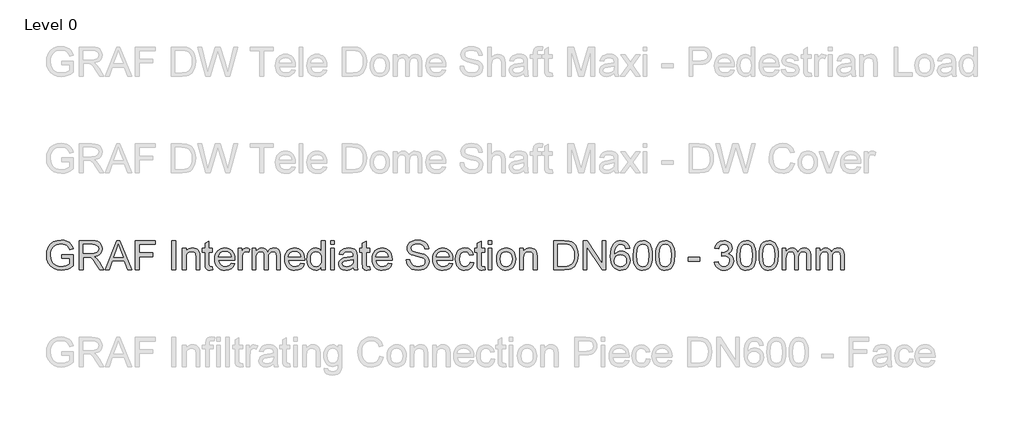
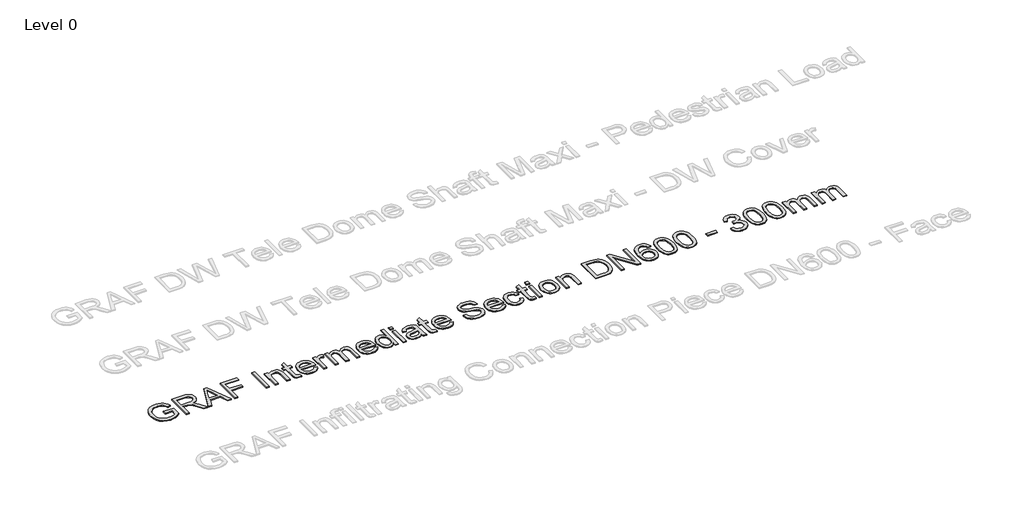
# One storey, part 10 of 25: 1 proxy.
"""IFC4 building model written with IfcOpenShell, lengths in millimetres."""

import ifcopenshell
import ifcopenshell.guid

model = None  # the IFC model being written
_history = None  # IfcOwnerHistory: only IFC2X3 demands one
_inside = {}  # id of a spatial element -> (the spatial element, [elements in it])
_under = {}  # id of a project, library or spatial element -> (it, [spatial elements below it])
_declared = {}  # id of a project -> (the project, [libraries it declares])
_typed = {}  # id of a type object -> (the type object, [elements of that type])
_made_of = {}  # id of a material, layer set ... -> (it, [elements and type objects made of it])


def new_model(schema):
    """Start an empty IFC model of exactly this schema.

    Asked for "IFC4X3", IfcOpenShell would pick the latest addendum, in which some entities
    have other attributes; the version numbers below select the first issue.
    IFC2X3 requires an IfcOwnerHistory on every rooted entity: one is made here for all.
    """
    global model, _history
    if schema == "IFC4X3":
        model = ifcopenshell.file(schema_version=(4, 3, 0, 0))
    else:
        model = ifcopenshell.file(schema=schema)
    _inside.clear()
    _under.clear()
    _declared.clear()
    _typed.clear()
    _made_of.clear()
    _history = None
    if model.schema == "IFC2X3":
        org = make("IfcOrganization", Name="unknown")
        user = make(
            "IfcPersonAndOrganization",
            ThePerson=make("IfcPerson", FamilyName="unknown"),
            TheOrganization=org,
        )
        app = make(
            "IfcApplication",
            ApplicationDeveloper=org,
            Version="unknown",
            ApplicationFullName="unknown",
            ApplicationIdentifier="unknown",
        )
        _history = make(
            "IfcOwnerHistory",
            OwningUser=user,
            OwningApplication=app,
            ChangeAction="ADDED",
            CreationDate=0,
        )
    return model


def make(cls, **values):
    """One entity of the class cls with the attributes given. An attribute that is None is left unset."""
    return model.create_entity(
        cls, **{name: value for name, value in values.items() if value is not None}
    )


def rooted(cls, **values):
    """An entity with a GlobalId (a new one), such as an element, a storey or a relation."""
    return make(cls, GlobalId=ifcopenshell.guid.new(), OwnerHistory=_history, **values)


def si_unit(unit_type, name, prefix=None):
    """IfcSIUnit, for example si_unit("LENGTHUNIT", "METRE", prefix="MILLI")."""
    return make("IfcSIUnit", UnitType=unit_type, Prefix=prefix, Name=name)


def assignment(units):
    """IfcUnitAssignment: the units of a project."""
    return None if units is None else make("IfcUnitAssignment", Units=units)


def point(xyz):
    """IfcCartesianPoint."""
    return None if xyz is None else make("IfcCartesianPoint", Coordinates=xyz)


def direction(xyz):
    """IfcDirection."""
    return None if xyz is None else make("IfcDirection", DirectionRatios=xyz)


def frame(location, z_axis=None, x_axis=None):
    """IfcAxis2Placement3D, a coordinate frame: its origin and axes. An axis left out is left unset."""
    return make(
        "IfcAxis2Placement3D",
        Location=point(location),
        Axis=direction(z_axis),
        RefDirection=direction(x_axis),
    )


def origin():
    """The frame at (0, 0, 0) with its axes left unset."""
    return frame((0.0, 0.0, 0.0))


def origin_with_axes():
    """The frame at (0, 0, 0) with the z axis (0, 0, 1) and the x axis (1, 0, 0) written out."""
    return frame((0.0, 0.0, 0.0), z_axis=(0.0, 0.0, 1.0), x_axis=(1.0, 0.0, 0.0))


def place(relative_to, where):
    """IfcLocalPlacement: puts the frame where relative to a parent placement (None: the world)."""
    return make(
        "IfcLocalPlacement", PlacementRelTo=relative_to, RelativePlacement=where
    )


def context(
    kind, dimensions, precision=None, world=None, true_north=None, identifier=None
):
    """IfcGeometricRepresentationContext, for example the 3D "Model" context."""
    return make(
        "IfcGeometricRepresentationContext",
        ContextIdentifier=identifier,
        ContextType=kind,
        CoordinateSpaceDimension=dimensions,
        Precision=precision,
        WorldCoordinateSystem=world,
        TrueNorth=true_north,
    )


def project(units=None, contexts=None):
    """IfcProject with its units and contexts."""
    return rooted(
        "IfcProject",
        Name="project",
        RepresentationContexts=contexts,
        UnitsInContext=assignment(units),
    )


def spatial(cls, under=None, at=None, **own):
    """A site, building, storey or space (cls), placed at a placement, below another one or the project."""
    s = rooted(cls, ObjectPlacement=at, **own)
    if under is not None:
        _under.setdefault(under.id(), (under, []))[1].append(s)
    return s


def polyline(points):
    """IfcPolyline through the points."""
    return make("IfcPolyline", Points=[point(p) for p in points])


def outline(outer, holes=None, kind="AREA"):
    """IfcArbitraryClosedProfileDef: a profile drawn as a closed curve; with holes, ...WithVoids."""
    if holes is None:
        return make("IfcArbitraryClosedProfileDef", ProfileType=kind, OuterCurve=outer)
    return make(
        "IfcArbitraryProfileDefWithVoids",
        ProfileType=kind,
        OuterCurve=outer,
        InnerCurves=holes,
    )


def extrude(swept, where, along, depth):
    """IfcExtrudedAreaSolid: the profile swept, set in the frame where, extruded along a direction by depth."""
    return make(
        "IfcExtrudedAreaSolid",
        SweptArea=swept,
        Position=where,
        ExtrudedDirection=direction(along),
        Depth=depth,
    )


def shape(context_of_items, identifier, shape_type, items):
    """IfcShapeRepresentation: the items that make up one representation, for example the "Body"."""
    return make(
        "IfcShapeRepresentation",
        ContextOfItems=context_of_items,
        RepresentationIdentifier=identifier,
        RepresentationType=shape_type,
        Items=items,
    )


def made_of(thing, what):
    """Note that an element or type object is made of a material, layer set ...; save() writes the relation."""
    if what is not None:
        _made_of.setdefault(what.id(), (what, []))[1].append(thing)
    return thing


def element(
    cls,
    number,
    at=None,
    inside=None,
    cuts=None,
    type_object=None,
    material=None,
    context=None,
    identifier="Body",
    shape_type=None,
    held_by="IfcProductDefinitionShape",
    body=None,
    shapes=None,
    **own,
):
    """One element of the class cls, such as IfcWall. Its Tag is "e" and its number.

    at: its placement. inside: the storey or other place that contains it. cuts: it is an
    opening in that element (IfcRelVoidsElement). A single representation is given by context,
    identifier, shape_type and body (its items); several are given by shapes. held_by: the class
    of the entity that holds the representations. save() writes the other relations.
    """
    e = rooted(cls, Tag="e%d" % number, ObjectPlacement=at, **own)
    if body is not None:
        shapes = [shape(context, identifier, shape_type, body)]
    if shapes is not None:
        e.Representation = make(held_by, Representations=shapes)
    if inside is not None:
        _inside.setdefault(inside.id(), (inside, []))[1].append(e)
    if cuts is not None:
        rooted(
            "IfcRelVoidsElement", RelatingBuildingElement=cuts, RelatedOpeningElement=e
        )
    if type_object is not None:
        _typed.setdefault(type_object.id(), (type_object, []))[1].append(e)
    return made_of(e, material)


def aggregate(whole, parts):
    """IfcRelAggregates: a whole, such as a stair, and the parts it consists of."""
    return rooted("IfcRelAggregates", RelatingObject=whole, RelatedObjects=parts)


def save(model, path):
    """Write the relations noted so far, then the file.

    IfcRelAggregates (storeys below a building ...), IfcRelContainedInSpatialStructure (elements
    in a storey), IfcRelDefinesByType, IfcRelAssociatesMaterial and IfcRelDeclares: one each for
    every whole, place, type object, material and project.
    """
    for whole, parts in _under.values():
        aggregate(whole, parts)
    for where, things in _inside.values():
        rooted(
            "IfcRelContainedInSpatialStructure",
            RelatedElements=things,
            RelatingStructure=where,
        )
    for kind, things in _typed.values():
        rooted("IfcRelDefinesByType", RelatedObjects=things, RelatingType=kind)
    for what, things in _made_of.values():
        rooted("IfcRelAssociatesMaterial", RelatedObjects=things, RelatingMaterial=what)
    for by, libraries in _declared.values():
        rooted("IfcRelDeclares", RelatingContext=by, RelatedDefinitions=libraries)
    model.write(path)


model = new_model("IFC4")

# Units and contexts
model_context = context("Model", 3, world=origin())
ifc_project = project(units=[si_unit("LENGTHUNIT", "METRE", prefix="MILLI")], contexts=[model_context])

# Site, building, storey
site = spatial("IfcSite", under=ifc_project)
building = spatial("IfcBuilding", under=site)
storey = spatial("IfcBuildingStorey", under=building, Name="Level 0", Elevation=0.0)

# Proxy
placement = place(None, origin())
element("IfcBuildingElementProxy", 1, Name="300mm Arial", ObjectType="300mm Arial", at=placement, inside=storey, context=model_context, shape_type="SweptSolid", body=[
    extrude(outline(polyline([(-15240.9940387, -1083.2545597), (-15240.9940387, -1045.5834434), (-15118.5629107, -1045.5834434), (-15118.5629107, -1158.2289103), (-15148.3153671, -1178.9222726), (-15179.0059225, -1193.7663111), (-15210.5610007, -1202.7058436), (-15242.9070251, -1205.6856877), (-15285.1674693, -1200.949207), (-15323.3628175, -1186.739765), (-15355.0926395, -1163.5540022), (-15377.9565055, -1131.8885595), (-15391.7796715, -1093.9047435), (-15396.3873935, -1051.7638609), (-15391.7980656, -1009.3194757), (-15378.0300819, -969.8365406), (-15355.6536596, -936.717964), (-15325.2390156, -913.3666543), (-15288.1932987, -899.5158972), (-15245.9236575, -894.8989782), (-15214.8928112, -897.5753197), (-15186.9889618, -905.6043443), (-15163.4904994, -918.4066377), (-15145.6758138, -935.4027859), (-15132.4964413, -957.4113262), (-15122.9039183, -985.2507962), (-15157.6319786, -995.0364573), (-15165.3850917, -975.1800266), (-15174.8120678, -960.1980323), (-15187.2832674, -948.9040551), (-15204.169051, -940.1116754), (-15224.3013932, -934.4554897), (-15246.5122687, -932.5700945), (-15272.5123287, -934.6026425), (-15294.7415982, -940.7002866), (-15313.1173039, -950.0996716), (-15327.5566722, -962.0374423), (-15346.9440533, -991.0633317), (-15355.7732212, -1019.50061), (-15358.7162772, -1050.2187566), (-15355.175413, -1086.2436009), (-15344.5528204, -1115.8856927), (-15327.1703961, -1138.9334997), (-15303.3500369, -1155.1754898), (-15275.4737787, -1164.804801), (-15245.9236575, -1168.0145714), (-15219.831627, -1165.5957473), (-15194.3833899, -1158.3392749), (-15172.2828791, -1148.3420817), (-15156.234027, -1137.701095), (-15156.234027, -1083.2545597), (-15240.9940387, -1083.2545597)])), origin_with_axes(), (0.0, 0.0, 1.0), 10.0),
    extrude(outline(polyline([(-15057.3473467, -1200.9767982), (-15057.3473467, -899.6078677), (-14927.4850024, -899.6078677), (-14892.5821982, -901.6404158), (-14867.1891434, -907.7380598), (-14848.6294968, -918.9952489), (-14834.2269167, -936.5064318), (-14824.9838815, -958.2206666), (-14821.9028698, -982.087011), (-14827.0072325, -1011.7750881), (-14842.3203206, -1036.3863935), (-14853.9200997, -1046.4157764), (-14868.3019865, -1054.4310054), (-14905.4120827, -1064.4190016), (-14884.0013506, -1080.532233), (-14853.467145, -1119.3069952), (-14803.2144645, -1200.9767982), (-14846.9924219, -1200.9767982), (-14886.2086426, -1138.5104354), (-14914.5355562, -1097.1604991), (-14934.4379722, -1077.6259652), (-14952.3538253, -1070.4522663), (-14974.2060158, -1069.1278911), (-15019.6762304, -1069.1278911), (-15019.6762304, -1200.9767982), (-15057.3473467, -1200.9767982)]), holes=[polyline([(-15019.6762304, -1031.4567748), (-14935.3576771, -1031.4567748), (-14911.1418448, -1030.1232026), (-14892.3522719, -1026.1224859), (-14878.2072092, -1019.1879103), (-14867.9249074, -1009.0527613), (-14861.6617165, -996.7930938), (-14859.5739861, -983.4849626), (-14863.5563087, -965.109257), (-14875.5032765, -950.3020067), (-14896.058683, -940.5347397), (-14925.8663217, -937.278984), (-15019.6762304, -937.278984), (-15019.6762304, -1031.4567748)])]), origin_with_axes(), (0.0, 0.0, 1.0), 10.0),
    extrude(outline(polyline([(-14791.0743586, -1200.9767982), (-14670.7769462, -899.6078677), (-14638.6976362, -899.6078677), (-14518.4002238, -1200.9767982), (-14558.2050557, -1200.9767982), (-14592.7123868, -1106.7990074), (-14716.835772, -1106.7990074), (-14751.2695268, -1200.9767982), (-14791.0743586, -1200.9767982)]), holes=[polyline([(-14703.003409, -1069.1278911), (-14606.4711735, -1069.1278911), (-14633.6208647, -995.0364573), (-14654.7372912, -937.278984), (-14673.499273, -988.5617342), (-14703.003409, -1069.1278911)])]), origin_with_axes(), (0.0, 0.0, 1.0), 10.0),
    extrude(outline(polyline([(-14478.1539335, -1200.9767982), (-14478.1539335, -899.6078677), (-14275.6716834, -899.6078677), (-14275.6716834, -937.278984), (-14440.4828172, -937.278984), (-14440.4828172, -1026.7478853), (-14299.2161311, -1026.7478853), (-14299.2161311, -1064.4190016), (-14440.4828172, -1064.4190016), (-14440.4828172, -1200.9767982), (-14478.1539335, -1200.9767982)])), origin_with_axes(), (0.0, 0.0, 1.0), 10.0),
    extrude(outline(polyline([(-14101.4427705, -1200.9767982), (-14101.4427705, -899.6078677), (-14063.7716542, -899.6078677), (-14063.7716542, -1200.9767982), (-14101.4427705, -1200.9767982)])), origin_with_axes(), (0.0, 0.0, 1.0), 10.0),
    extrude(outline(polyline([(-13993.1383111, -1200.9767982), (-13993.1383111, -979.6589899), (-13955.4671948, -979.6589899), (-13955.4671948, -1010.5610775), (-13942.3797928, -994.981275), (-13926.6620346, -983.8528446), (-13908.3139201, -977.1757864), (-13887.3354493, -974.9501003), (-13868.7666056, -976.7435251), (-13851.7612603, -982.1237992), (-13837.5794094, -990.4195382), (-13827.4810487, -1000.9593574), (-13816.1870714, -1028.6608716), (-13814.2005086, -1065.0811892), (-13814.2005086, -1200.9767982), (-13851.8716249, -1200.9767982), (-13851.8716249, -1070.1579607), (-13856.2126325, -1036.8278519), (-13862.2183061, -1026.9042351), (-13871.5533117, -1019.2063044), (-13883.5186736, -1014.2674886), (-13897.415416, -1012.6212166), (-13919.4791386, -1016.3184307), (-13938.2871056, -1027.4100729), (-13945.8033946, -1036.4645685), (-13951.1721725, -1048.8391991), (-13955.4671948, -1083.5488653), (-13955.4671948, -1200.9767982), (-13993.1383111, -1200.9767982)])), origin_with_axes(), (0.0, 0.0, 1.0), 10.0),
    extrude(outline(polyline([(-13682.3516016, -1169.5596758), (-13677.642712, -1202.0804442), (-13705.8224729, -1205.6856877), (-13723.9038729, -1204.1221892), (-13737.386748, -1199.4316938), (-13746.9148917, -1192.2028126), (-13753.1320974, -1183.0241568), (-13756.5534, -1167.2604133), (-13757.6938342, -1140.276269), (-13757.6938342, -1017.3301062), (-13785.9471714, -1017.3301062), (-13785.9471714, -979.6589899), (-13757.6938342, -979.6589899), (-13757.6938342, -925.8746422), (-13720.0227179, -903.7281461), (-13720.0227179, -979.6589899), (-13682.3516016, -979.6589899), (-13682.3516016, -1017.3301062), (-13720.0227179, -1017.3301062), (-13720.0227179, -1139.172623), (-13718.0361551, -1158.5967923), (-13711.5982202, -1165.4761856), (-13698.7591386, -1168.0145714), (-13682.3516016, -1169.5596758)])), origin_with_axes(), (0.0, 0.0, 1.0), 10.0),
    extrude(outline(polyline([(-13489.7285889, -1135.0523446), (-13452.7932366, -1139.7612342), (-13466.1013678, -1167.5915071), (-13487.3373559, -1188.3952339), (-13516.0229545, -1201.3630743), (-13551.6799169, -1205.6856877), (-13575.0542192, -1203.8209859), (-13595.8809386, -1198.2268803), (-13614.1600752, -1188.9033709), (-13629.8916291, -1175.8504579), (-13642.5421712, -1159.4314246), (-13651.5782727, -1140.0095545), (-13656.9999336, -1117.5848477), (-13658.8071539, -1092.157304), (-13656.9815395, -1065.8675369), (-13651.5046963, -1042.6955698), (-13642.3766243, -1022.6414025), (-13629.5973235, -1005.7050351), (-13613.9071564, -992.2497512), (-13596.0464855, -982.638834), (-13576.0153109, -976.8722838), (-13553.8136325, -974.9501003), (-13532.3270247, -976.8676852), (-13512.8959575, -982.6204399), (-13495.5204311, -992.2083644), (-13480.2004452, -1005.6314587), (-13467.6947566, -1022.5310379), (-13458.762122, -1042.548417), (-13453.4025411, -1065.6835959), (-13451.6160142, -1091.9365748), (-13451.8367434, -1102.0901179), (-13621.1360376, -1102.0901179), (-13614.6153292, -1130.2882728), (-13599.4677881, -1151.0184232), (-13577.6064005, -1163.7655344), (-13550.9441529, -1168.0145714), (-13530.8945842, -1166.0464027), (-13514.0088006, -1160.1418967), (-13500.2868022, -1149.9331713), (-13489.7285889, -1135.0523446)]), holes=[polyline([(-13621.1360376, -1064.4190016), (-13489.2871305, -1064.4190016), (-13494.3822961, -1044.5165856), (-13504.3702923, -1030.2795524), (-13526.3328474, -1017.0358006), (-13553.9607853, -1012.6212166), (-13579.35384, -1016.1436868), (-13600.3507048, -1026.7110971), (-13614.946423, -1043.1830134), (-13621.1360376, -1064.4190016)])]), origin_with_axes(), (0.0, 0.0, 1.0), 10.0),
    extrude(outline(polyline([(-13413.9448979, -1200.9767982), (-13413.9448979, -979.6589899), (-13380.9826711, -979.6589899), (-13380.9826711, -1012.4004875), (-13368.8057771, -993.4177765), (-13357.5853762, -982.2341638), (-13346.3281872, -976.7711162), (-13334.0409285, -974.9501003), (-13315.2789468, -977.8563681), (-13296.2226594, -986.5751714), (-13308.8042237, -1020.3467385), (-13322.0479755, -1014.5525971), (-13335.2917273, -1012.6212166), (-13346.5397193, -1014.4790207), (-13356.5920948, -1020.052433), (-13364.7130899, -1028.918389), (-13370.1669405, -1040.6538247), (-13374.7470713, -1061.6966748), (-13376.2737816, -1084.6525113), (-13376.2737816, -1200.9767982), (-13413.9448979, -1200.9767982)])), origin_with_axes(), (0.0, 0.0, 1.0), 10.0),
    extrude(outline(polyline([(-13272.6782117, -1200.9767982), (-13272.6782117, -979.6589899), (-13235.0070954, -979.6589899), (-13235.0070954, -1016.0793074), (-13223.67633, -999.3498737), (-13209.108203, -986.2440776), (-13191.7993551, -977.7735947), (-13172.2464271, -974.9501003), (-13151.2955474, -977.828777), (-13134.5017344, -986.4648068), (-13121.9569583, -1000.2879728), (-13113.7531898, -1018.7280578), (-13100.0219944, -999.5752014), (-13084.3594184, -985.8945897), (-13066.765462, -977.6862227), (-13047.2401251, -974.9501003), (-13018.9224085, -979.50264), (-12997.9807259, -993.1602591), (-12985.0404768, -1016.2908395), (-12980.7270604, -1049.2622634), (-12980.7270604, -1200.9767982), (-13018.3981767, -1200.9767982), (-13018.3981767, -1065.4490712), (-13021.8930556, -1033.9951606), (-13026.8042803, -1025.3223425), (-13034.5481963, -1018.5073286), (-13044.5086013, -1014.0927446), (-13056.069293, -1012.6212166), (-13076.4775467, -1016.3920071), (-13093.1150099, -1027.7043784), (-13104.1790609, -1047.3308829), (-13107.8670779, -1076.0440726), (-13107.8670779, -1200.9767982), (-13145.5381942, -1200.9767982), (-13145.5381942, -1061.2552164), (-13147.717895, -1039.9548489), (-13154.2569975, -1024.7613225), (-13165.7625069, -1015.6562431), (-13182.8414285, -1012.6212166), (-13197.3543732, -1014.6445676), (-13210.7268838, -1020.7146205), (-13221.7633436, -1030.6842226), (-13229.2681363, -1044.406221), (-13233.5723557, -1063.4441143), (-13235.0070954, -1089.3614008), (-13235.0070954, -1200.9767982), (-13272.6782117, -1200.9767982)])), origin_with_axes(), (0.0, 0.0, 1.0), 10.0),
    extrude(outline(polyline([(-12769.2684895, -1135.0523446), (-12732.3331372, -1139.7612342), (-12745.6412684, -1167.5915071), (-12766.8772566, -1188.3952339), (-12795.5628551, -1201.3630743), (-12831.2198175, -1205.6856877), (-12854.5941198, -1203.8209859), (-12875.4208393, -1198.2268803), (-12893.6999759, -1188.9033709), (-12909.4315297, -1175.8504579), (-12922.0820718, -1159.4314246), (-12931.1181733, -1140.0095545), (-12936.5398342, -1117.5848477), (-12938.3470545, -1092.157304), (-12936.5214401, -1065.8675369), (-12931.0445969, -1042.6955698), (-12921.9165249, -1022.6414025), (-12909.1372241, -1005.7050351), (-12893.447057, -992.2497512), (-12875.5863861, -982.638834), (-12855.5552115, -976.8722838), (-12833.3535331, -974.9501003), (-12811.8669253, -976.8676852), (-12792.4358582, -982.6204399), (-12775.0603317, -992.2083644), (-12759.7403459, -1005.6314587), (-12747.2346573, -1022.5310379), (-12738.3020226, -1042.548417), (-12732.9424418, -1065.6835959), (-12731.1559148, -1091.9365748), (-12731.376644, -1102.0901179), (-12900.6759382, -1102.0901179), (-12894.1552299, -1130.2882728), (-12879.0076887, -1151.0184232), (-12857.1463011, -1163.7655344), (-12830.4840535, -1168.0145714), (-12810.4344848, -1166.0464027), (-12793.5487012, -1160.1418967), (-12779.8267028, -1149.9331713), (-12769.2684895, -1135.0523446)]), holes=[polyline([(-12900.6759382, -1064.4190016), (-12768.8270311, -1064.4190016), (-12773.9221968, -1044.5165856), (-12783.910193, -1030.2795524), (-12805.8727481, -1017.0358006), (-12833.5006859, -1012.6212166), (-12858.8937406, -1016.1436868), (-12879.8906055, -1026.7110971), (-12894.4863237, -1043.1830134), (-12900.6759382, -1064.4190016)])]), origin_with_axes(), (0.0, 0.0, 1.0), 10.0),
    extrude(outline(polyline([(-12556.9270019, -1200.9767982), (-12556.9270019, -1165.4393974), (-12568.1979866, -1183.0471494), (-12581.8510071, -1195.6241151), (-12597.8860636, -1203.1702946), (-12616.3031559, -1205.6856877), (-12640.656944, -1202.043656), (-12662.9505929, -1191.1175607), (-12681.8229393, -1173.6707571), (-12695.9128197, -1150.4666002), (-12704.6868053, -1122.4431893), (-12707.6114672, -1090.5386232), (-12704.9167315, -1059.0295303), (-12696.8325247, -1030.573858), (-12683.3680437, -1006.790287), (-12664.5324855, -989.2974982), (-12641.751393, -978.5369498), (-12616.4503087, -974.9501003), (-12598.0194208, -977.5160773), (-12581.7222484, -985.214008), (-12567.9082795, -997.013823), (-12556.9270019, -1011.8854527), (-12556.9270019, -899.6078677), (-12519.2558856, -899.6078677), (-12519.2558856, -1200.9767982), (-12556.9270019, -1200.9767982)]), holes=[polyline([(-12669.9403508, -1090.3914704), (-12665.6913138, -1124.4665402), (-12652.9442027, -1148.7007667), (-12634.4213442, -1163.1861202), (-12612.8450652, -1168.0145714), (-12591.2779832, -1163.4068494), (-12573.2241743, -1149.5836835), (-12561.001295, -1126.2875561), (-12556.9270019, -1093.26095), (-12561.0748714, -1057.1533322), (-12573.5184799, -1032.1189624), (-12592.0321413, -1017.4956531), (-12614.3901696, -1012.6212166), (-12636.1871778, -1017.302515), (-12654.0478487, -1031.3464102), (-12665.9672253, -1055.470272), (-12669.9403508, -1090.3914704)])]), origin_with_axes(), (0.0, 0.0, 1.0), 10.0),
    extrude(outline(polyline([(-12462.7492112, -937.278984), (-12462.7492112, -899.6078677), (-12425.0780949, -899.6078677), (-12425.0780949, -937.278984), (-12462.7492112, -937.278984)])), origin_with_axes(), (0.0, 0.0, 1.0), 10.0),
    extrude(outline(polyline([(-12462.7492112, -1200.9767982), (-12462.7492112, -979.6589899), (-12425.0780949, -979.6589899), (-12425.0780949, -1200.9767982), (-12462.7492112, -1200.9767982)])), origin_with_axes(), (0.0, 0.0, 1.0), 10.0),
    extrude(outline(polyline([(-12227.3047342, -1172.7234609), (-12245.3033609, -1188.1561106), (-12263.8354164, -1198.2544714), (-12283.3239651, -1203.8278836), (-12304.1920712, -1205.6856877), (-12335.673573, -1201.2159215), (-12358.8961239, -1187.8066228), (-12373.2159306, -1167.4443543), (-12377.9891995, -1142.1156789), (-12376.1865777, -1126.4990883), (-12370.7787124, -1112.3172373), (-12362.4369881, -1100.1771315), (-12351.8327896, -1090.685776), (-12325.4556506, -1078.324941), (-12292.8613058, -1072.6595583), (-12254.3440609, -1066.6998699), (-12227.5254634, -1059.710112), (-12227.3047342, -1051.3224025), (-12229.8983023, -1034.5101954), (-12237.6790065, -1023.5105237), (-12255.0798249, -1015.3435434), (-12279.3232484, -1012.6212166), (-12301.7640501, -1014.4330355), (-12317.4358231, -1019.868492), (-12328.122795, -1029.9208675), (-12335.6091936, -1045.5834434), (-12373.2803099, -1040.8745539), (-12366.7412075, -1020.2731621), (-12356.9831375, -1004.0863544), (-12343.0955922, -991.7071252), (-12324.1680636, -982.5284694), (-12301.019089, -976.8446926), (-12274.467206, -974.9501003), (-12249.0005749, -976.6239634), (-12228.8130504, -981.6455527), (-12213.5919329, -989.1963306), (-12203.0245226, -998.4577598), (-12196.0163706, -1009.9080869), (-12191.4730279, -1024.0255585), (-12189.6336179, -1056.9877853), (-12189.6336179, -1103.8559515), (-12187.7206316, -1169.3021584), (-12180.2158389, -1200.9767982), (-12217.8869552, -1200.9767982), (-12227.3047342, -1172.7234609)]), holes=[polyline([(-12227.3047342, -1097.3812283), (-12288.0788399, -1108.932723), (-12320.4892436, -1115.0395641), (-12335.1677352, -1124.972378), (-12340.3180832, -1139.4669286), (-12337.512983, -1150.6689353), (-12329.0976823, -1159.8475911), (-12315.2561222, -1165.9728263), (-12296.1722437, -1168.0145714), (-12275.938734, -1165.7612942), (-12258.059669, -1159.0014625), (-12243.5651184, -1149.0410575), (-12233.4851518, -1137.1860602), (-12229.0153855, -1124.972378), (-12227.5254634, -1108.0498062), (-12227.3047342, -1097.3812283)])]), origin_with_axes(), (0.0, 0.0, 1.0), 10.0),
    extrude(outline(polyline([(-12057.7847109, -1169.5596758), (-12053.0758213, -1202.0804442), (-12081.2555822, -1205.6856877), (-12099.3369822, -1204.1221892), (-12112.8198573, -1199.4316938), (-12122.348001, -1192.2028126), (-12128.5652067, -1183.0241568), (-12131.9865093, -1167.2604133), (-12133.1269435, -1140.276269), (-12133.1269435, -1017.3301062), (-12161.3802807, -1017.3301062), (-12161.3802807, -979.6589899), (-12133.1269435, -979.6589899), (-12133.1269435, -925.8746422), (-12095.4558272, -903.7281461), (-12095.4558272, -979.6589899), (-12057.7847109, -979.6589899), (-12057.7847109, -1017.3301062), (-12095.4558272, -1017.3301062), (-12095.4558272, -1139.172623), (-12093.4692644, -1158.5967923), (-12087.0313295, -1165.4761856), (-12074.1922479, -1168.0145714), (-12057.7847109, -1169.5596758)])), origin_with_axes(), (0.0, 0.0, 1.0), 10.0),
    extrude(outline(polyline([(-11865.1616982, -1135.0523446), (-11828.2263459, -1139.7612342), (-11841.5344771, -1167.5915071), (-11862.7704652, -1188.3952339), (-11891.4560638, -1201.3630743), (-11927.1130262, -1205.6856877), (-11950.4873285, -1203.8209859), (-11971.3140479, -1198.2268803), (-11989.5931845, -1188.9033709), (-12005.3247384, -1175.8504579), (-12017.9752805, -1159.4314246), (-12027.011382, -1140.0095545), (-12032.4330429, -1117.5848477), (-12034.2402632, -1092.157304), (-12032.4146488, -1065.8675369), (-12026.9378056, -1042.6955698), (-12017.8097336, -1022.6414025), (-12005.0304328, -1005.7050351), (-11989.3402657, -992.2497512), (-11971.4795948, -982.638834), (-11951.4484202, -976.8722838), (-11929.2467418, -974.9501003), (-11907.760134, -976.8676852), (-11888.3290668, -982.6204399), (-11870.9535404, -992.2083644), (-11855.6335545, -1005.6314587), (-11843.1278659, -1022.5310379), (-11834.1952313, -1042.548417), (-11828.8356504, -1065.6835959), (-11827.0491235, -1091.9365748), (-11827.2698527, -1102.0901179), (-11996.5691469, -1102.0901179), (-11990.0484385, -1130.2882728), (-11974.9008974, -1151.0184232), (-11953.0395098, -1163.7655344), (-11926.3772622, -1168.0145714), (-11906.3276935, -1166.0464027), (-11889.4419099, -1160.1418967), (-11875.7199115, -1149.9331713), (-11865.1616982, -1135.0523446)]), holes=[polyline([(-11996.5691469, -1064.4190016), (-11864.7202398, -1064.4190016), (-11869.8154054, -1044.5165856), (-11879.8034016, -1030.2795524), (-11901.7659567, -1017.0358006), (-11929.3938946, -1012.6212166), (-11954.7869493, -1016.1436868), (-11975.7838141, -1026.7110971), (-11990.3795323, -1043.1830134), (-11996.5691469, -1064.4190016)])]), origin_with_axes(), (0.0, 0.0, 1.0), 10.0),
    extrude(outline(polyline([(-11681.0735478, -1097.3812283), (-11643.4024315, -1097.3812283), (-11639.0798181, -1118.2861227), (-11631.2623257, -1135.0891328), (-11619.0670375, -1148.4248552), (-11601.6110369, -1158.9278861), (-11580.2738811, -1165.7429001), (-11556.4351278, -1168.0145714), (-11535.44746, -1166.2947231), (-11517.0717544, -1161.1351781), (-11502.1817306, -1152.9681978), (-11491.6511085, -1142.2260435), (-11485.3879175, -1129.8927997), (-11483.3001872, -1116.9525505), (-11484.8636857, -1104.3433951), (-11489.5541811, -1093.444891), (-11499.0823248, -1084.1466736), (-11515.158768, -1076.3383782), (-11570.0099735, -1061.9541922), (-11606.0164237, -1052.4352456), (-11629.0550337, -1043.3761514), (-11647.8078184, -1030.7026167), (-11661.0975555, -1015.3435434), (-11669.0162154, -997.6300253), (-11671.6557687, -977.8931563), (-11668.390816, -955.8294336), (-11658.5959579, -935.2556331), (-11642.5287118, -917.8180265), (-11620.446595, -905.1628859), (-11593.9406973, -897.4649551), (-11564.6021081, -894.8989782), (-11532.8171038, -897.5845168), (-11505.0052249, -905.6411325), (-11482.159753, -918.9032784), (-11465.2739694, -937.2054076), (-11454.5869975, -959.407086), (-11450.3379604, -984.3678794), (-11488.0090767, -984.3678794), (-11494.9252582, -961.8902895), (-11509.3462325, -945.6666935), (-11531.8790047, -935.8442443), (-11563.1305802, -932.5700945), (-11595.1179196, -935.8074561), (-11617.0620806, -945.5195407), (-11629.7540095, -959.8117562), (-11633.9846524, -976.7895103), (-11630.9864142, -991.2656668), (-11621.9916994, -1002.909132), (-11600.7281201, -1013.3201924), (-11560.4818298, -1023.9519821), (-11518.9479525, -1034.0503429), (-11493.8216123, -1042.8611167), (-11472.3465008, -1056.5279328), (-11457.3645065, -1073.3953223), (-11448.5629298, -1093.2793441), (-11445.6290709, -1115.9960573), (-11449.0043882, -1139.2186082), (-11459.1303401, -1161.0616017), (-11475.5930594, -1179.8603717), (-11497.9786788, -1193.9502521), (-11524.8984438, -1202.7518288), (-11554.9635999, -1205.6856877), (-11591.871361, -1202.5219026), (-11622.2492168, -1193.0305471), (-11646.446655, -1177.1748331), (-11664.8131636, -1154.9179724), (-11676.6037816, -1127.8050693), (-11681.0735478, -1097.3812283)])), origin_with_axes(), (0.0, 0.0, 1.0), 10.0),
    extrude(outline(polyline([(-11238.8793896, -1135.0523446), (-11201.9440373, -1139.7612342), (-11215.2521685, -1167.5915071), (-11236.4881566, -1188.3952339), (-11265.1737552, -1201.3630743), (-11300.8307176, -1205.6856877), (-11324.2050199, -1203.8209859), (-11345.0317393, -1198.2268803), (-11363.310876, -1188.9033709), (-11379.0424298, -1175.8504579), (-11391.6929719, -1159.4314246), (-11400.7290734, -1140.0095545), (-11406.1507343, -1117.5848477), (-11407.9579546, -1092.157304), (-11406.1323402, -1065.8675369), (-11400.655497, -1042.6955698), (-11391.527425, -1022.6414025), (-11378.7481242, -1005.7050351), (-11363.0579571, -992.2497512), (-11345.1972862, -982.638834), (-11325.1661116, -976.8722838), (-11302.9644332, -974.9501003), (-11281.4778254, -976.8676852), (-11262.0467583, -982.6204399), (-11244.6712318, -992.2083644), (-11229.3512459, -1005.6314587), (-11216.8455574, -1022.5310379), (-11207.9129227, -1042.548417), (-11202.5533418, -1065.6835959), (-11200.7668149, -1091.9365748), (-11200.9875441, -1102.0901179), (-11370.2868383, -1102.0901179), (-11363.7661299, -1130.2882728), (-11348.6185888, -1151.0184232), (-11326.7572012, -1163.7655344), (-11300.0949536, -1168.0145714), (-11280.0453849, -1166.0464027), (-11263.1596013, -1160.1418967), (-11249.4376029, -1149.9331713), (-11238.8793896, -1135.0523446)]), holes=[polyline([(-11370.2868383, -1064.4190016), (-11238.4379312, -1064.4190016), (-11243.5330968, -1044.5165856), (-11253.521093, -1030.2795524), (-11275.4836481, -1017.0358006), (-11303.111586, -1012.6212166), (-11328.5046407, -1016.1436868), (-11349.5015056, -1026.7110971), (-11364.0972237, -1043.1830134), (-11370.2868383, -1064.4190016)])]), origin_with_axes(), (0.0, 0.0, 1.0), 10.0),
    extrude(outline(polyline([(-11021.8290125, -1120.925676), (-10984.1578961, -1125.6345656), (-10994.6609271, -1159.1394183), (-11014.3977961, -1184.4588966), (-11041.5106992, -1200.3789899), (-11074.1418322, -1205.6856877), (-11095.269755, -1203.8347814), (-11114.2133785, -1198.2820626), (-11130.9727026, -1189.0275311), (-11145.5477274, -1176.0711871), (-11157.3452432, -1159.6567523), (-11165.7720401, -1140.0279486), (-11170.8281183, -1117.184776), (-11172.5134777, -1091.1272344), (-11169.6348011, -1057.6039876), (-11160.9987712, -1028.550507), (-11146.4674324, -1005.0888328), (-11125.9028289, -988.341005), (-11101.3007205, -978.2978265), (-11074.656867, -974.9501003), (-11042.8258773, -979.5486253), (-11017.3776403, -993.3442001), (-10999.1214963, -1015.6010608), (-10988.8667857, -1045.5834434), (-11026.537902, -1050.292333), (-11033.3713101, -1033.8572048), (-11044.0122968, -1022.0757839), (-11057.8722509, -1014.9848585), (-11074.3625614, -1012.6212166), (-11098.7071524, -1017.2749239), (-11118.0301542, -1031.2360456), (-11130.6393096, -1055.2587399), (-11134.8423614, -1090.0971648), (-11130.7312801, -1125.4046393), (-11118.3980362, -1149.5101071), (-11099.4245223, -1163.3884553), (-11075.392631, -1168.0145714), (-11055.8856882, -1165.1266977), (-11039.8920184, -1156.4630768), (-11028.2577503, -1141.8029793), (-11021.8290125, -1120.925676)])), origin_with_axes(), (0.0, 0.0, 1.0), 10.0),
    extrude(outline(polyline([(-10871.1445472, -1169.5596758), (-10866.4356577, -1202.0804442), (-10894.6154185, -1205.6856877), (-10912.6968186, -1204.1221892), (-10926.1796937, -1199.4316938), (-10935.7078374, -1192.2028126), (-10941.9250431, -1183.0241568), (-10945.3463457, -1167.2604133), (-10946.4867798, -1140.276269), (-10946.4867798, -1017.3301062), (-10974.7401171, -1017.3301062), (-10974.7401171, -979.6589899), (-10946.4867798, -979.6589899), (-10946.4867798, -925.8746422), (-10908.8156635, -903.7281461), (-10908.8156635, -979.6589899), (-10871.1445472, -979.6589899), (-10871.1445472, -1017.3301062), (-10908.8156635, -1017.3301062), (-10908.8156635, -1139.172623), (-10906.8291008, -1158.5967923), (-10900.3911658, -1165.4761856), (-10887.5520842, -1168.0145714), (-10871.1445472, -1169.5596758)])), origin_with_axes(), (0.0, 0.0, 1.0), 10.0),
    extrude(outline(polyline([(-10833.4734309, -937.278984), (-10833.4734309, -899.6078677), (-10795.8023146, -899.6078677), (-10795.8023146, -937.278984), (-10833.4734309, -937.278984)])), origin_with_axes(), (0.0, 0.0, 1.0), 10.0),
    extrude(outline(polyline([(-10833.4734309, -1200.9767982), (-10833.4734309, -979.6589899), (-10795.8023146, -979.6589899), (-10795.8023146, -1200.9767982), (-10833.4734309, -1200.9767982)])), origin_with_axes(), (0.0, 0.0, 1.0), 10.0),
    extrude(outline(polyline([(-10748.7134192, -1090.317894), (-10746.6762727, -1061.6552881), (-10740.564833, -1036.9566106), (-10730.3791003, -1016.2218617), (-10716.1190745, -999.4510412), (-10701.7624796, -988.7318796), (-10685.9159627, -981.0753356), (-10668.5795236, -976.4814091), (-10649.7531625, -974.9501003), (-10628.9701291, -976.8148022), (-10610.1782569, -982.4089078), (-10593.377546, -991.7324171), (-10578.5679965, -1004.7853302), (-10566.4807737, -1021.1261885), (-10557.8470431, -1040.3135338), (-10552.6668047, -1062.3473661), (-10550.9400586, -1087.2276853), (-10553.9934792, -1125.2850777), (-10563.1537409, -1154.2557848), (-10578.1541292, -1175.9516255), (-10598.7279298, -1192.1844185), (-10623.1644913, -1202.3103704), (-10649.7531625, -1205.6856877), (-10670.8396986, -1203.8278836), (-10689.8063148, -1198.2544714), (-10706.6530109, -1188.965451), (-10721.379787, -1175.9608225), (-10733.3382511, -1159.461315), (-10741.8800112, -1139.6876578), (-10747.0050672, -1116.6398508), (-10748.7134192, -1090.317894)]), holes=[polyline([(-10711.0423029, -1090.2443176), (-10706.6829013, -1124.3377815), (-10693.6046964, -1148.6271903), (-10673.9230096, -1163.1677261), (-10649.7531625, -1168.0145714), (-10625.69368, -1163.140135), (-10606.0487815, -1148.5168257), (-10592.9705766, -1123.9055202), (-10588.6111749, -1089.0670952), (-10592.9981677, -1055.9669127), (-10606.1591461, -1032.0085978), (-10625.8316358, -1017.4680619), (-10649.7531625, -1012.6212166), (-10673.9230096, -1017.4496678), (-10693.6046964, -1031.9350214), (-10706.6829013, -1056.1692478), (-10711.0423029, -1090.2443176)])]), origin_with_axes(), (0.0, 0.0, 1.0), 10.0),
    extrude(outline(polyline([(-10508.5600528, -1200.9767982), (-10508.5600528, -979.6589899), (-10470.8889365, -979.6589899), (-10470.8889365, -1010.5610775), (-10457.8015345, -994.981275), (-10442.0837763, -983.8528446), (-10423.7356617, -977.1757864), (-10402.757191, -974.9501003), (-10384.1883473, -976.7435251), (-10367.183002, -982.1237992), (-10353.0011511, -990.4195382), (-10342.9027904, -1000.9593574), (-10331.6088131, -1028.6608716), (-10329.6222503, -1065.0811892), (-10329.6222503, -1200.9767982), (-10367.2933666, -1200.9767982), (-10367.2933666, -1070.1579607), (-10371.6343742, -1036.8278519), (-10377.6400477, -1026.9042351), (-10386.9750534, -1019.2063044), (-10398.9404153, -1014.2674886), (-10412.8371576, -1012.6212166), (-10434.9008803, -1016.3184307), (-10453.7088473, -1027.4100729), (-10461.2251363, -1036.4645685), (-10466.5939142, -1048.8391991), (-10470.8889365, -1083.5488653), (-10470.8889365, -1200.9767982), (-10508.5600528, -1200.9767982)])), origin_with_axes(), (0.0, 0.0, 1.0), 10.0),
    extrude(outline(polyline([(-10155.3933374, -1200.9767982), (-10155.3933374, -899.6078677), (-10051.4298856, -899.6078677), (-9997.6455379, -903.9488753), (-9973.6228436, -912.3181907), (-9953.3525457, -925.5067602), (-9932.5120306, -948.4625967), (-9917.6679921, -977.0102395), (-9908.7836419, -1010.5978657), (-9905.8221919, -1048.6736522), (-9907.8271488, -1081.0196766), (-9913.8420194, -1109.484546), (-9923.0022811, -1133.7187724), (-9934.4434111, -1153.372868), (-9947.6135865, -1168.8882911), (-9961.9609843, -1180.7065002), (-9978.4329007, -1189.4712888), (-9997.9766317, -1195.8264502), (-10046.4266904, -1200.9767982), (-10155.3933374, -1200.9767982)]), holes=[polyline([(-10117.7222211, -1163.3056819), (-10051.0620036, -1163.3056819), (-10023.489248, -1161.9445185), (-10002.5751566, -1157.8610283), (-9986.793019, -1151.2943347), (-9974.616125, -1142.4835609), (-9961.528723, -1126.1771915), (-9951.6970767, -1105.069962), (-9945.5442503, -1079.069902), (-9943.4933082, -1048.085041), (-9947.512419, -1007.0294103), (-9959.5697514, -976.7159339), (-9977.384437, -955.893813), (-9998.6756075, -943.3122488), (-10020.343857, -938.7873002), (-10052.0920732, -937.278984), (-10117.7222211, -937.278984), (-10117.7222211, -1163.3056819)])]), origin_with_axes(), (0.0, 0.0, 1.0), 10.0),
    extrude(outline(polyline([(-9854.024407, -1200.9767982), (-9854.024407, -899.6078677), (-9813.7045403, -899.6078677), (-9656.2510464, -1138.3632826), (-9656.2510464, -899.6078677), (-9618.57993, -899.6078677), (-9618.57993, -1200.9767982), (-9658.8997967, -1200.9767982), (-9816.3532907, -962.1478069), (-9816.3532907, -1200.9767982), (-9854.024407, -1200.9767982)])), origin_with_axes(), (0.0, 0.0, 1.0), 10.0),
    extrude(outline(polyline([(-9373.7176741, -979.6589899), (-9411.3887904, -984.3678794), (-9417.4588433, -965.6978682), (-9425.6626118, -952.950757), (-9442.7507305, -941.1969273), (-9463.4073045, -937.278984), (-9480.9184875, -939.5598524), (-9497.3996008, -946.4024575), (-9511.5538606, -960.8142347), (-9523.1145523, -980.6522713), (-9530.9228476, -1008.7124704), (-9533.8199184, -1047.7907354), (-9518.7091654, -1030.1599908), (-9500.6001742, -1017.7347764), (-9480.5046202, -1010.3679394), (-9459.4341789, -1007.9123271), (-9441.3343848, -1009.5907887), (-9424.6325422, -1014.6261735), (-9409.3286512, -1023.0184815), (-9395.4227118, -1034.7677128), (-9383.8666186, -1049.1748914), (-9375.6122663, -1065.5410417), (-9370.659655, -1083.8661635), (-9369.0087845, -1104.150257), (-9372.1173874, -1131.1252043), (-9381.443196, -1156.131983), (-9396.2136581, -1177.34038), (-9415.6562215, -1192.9201825), (-9438.8879695, -1202.4943114), (-9465.0259853, -1205.6856877), (-9487.4828818, -1203.5703662), (-9507.7646761, -1197.2244018), (-9525.871368, -1186.6477945), (-9541.8029577, -1171.8405442), (-9554.7914913, -1152.1772515), (-9564.0690154, -1127.0325171), (-9569.6355299, -1096.406341), (-9571.4910347, -1060.2987232), (-9569.4308955, -1019.8179082), (-9563.250478, -985.2691903), (-9552.9497821, -956.6525696), (-9538.5288079, -933.9680461), (-9522.8984216, -918.9354681), (-9504.7756348, -908.1979123), (-9484.1604475, -901.7553789), (-9461.0528597, -899.6078677), (-9427.9986624, -904.9237626), (-9401.5295529, -920.8714471), (-9382.9883003, -946.2001224), (-9373.7176741, -979.6589899)]), holes=[polyline([(-9533.8199184, -1103.5616459), (-9531.6402175, -1120.2542914), (-9525.1011151, -1136.1927788), (-9514.947572, -1149.8963831), (-9501.9245494, -1159.8843793), (-9486.2067911, -1165.9820234), (-9467.9690412, -1168.0145714), (-9443.1094154, -1163.8023226), (-9423.5656844, -1151.165576), (-9410.9013467, -1131.2999483), (-9406.6799008, -1105.4010558), (-9410.8461644, -1080.54143), (-9423.3449552, -1061.5863102), (-9443.21978, -1049.5841601), (-9469.5141456, -1045.5834434), (-9494.3369832, -1049.5841601), (-9515.0947248, -1061.5863102), (-9529.13862, -1080.0815775), (-9533.8199184, -1103.5616459)])]), origin_with_axes(), (0.0, 0.0, 1.0), 10.0),
    extrude(outline(polyline([(-9336.0465578, -1052.7203541), (-9333.2782457, -1004.4818275), (-9324.9733097, -966.0105679), (-9311.2145231, -936.717964), (-9292.0846593, -916.0154047), (-9267.4457627, -903.709752), (-9237.1598775, -899.6078677), (-9213.9465236, -902.0358889), (-9193.1611908, -909.3199524), (-9175.7787666, -921.1749497), (-9162.774138, -937.3157722), (-9152.9516888, -957.6044643), (-9145.1158023, -981.9030701), (-9139.9838484, -1012.7591724), (-9138.2731971, -1052.7203541), (-9141.013918, -1100.6829692), (-9149.2360806, -1139.0622584), (-9162.9120938, -1168.3824534), (-9182.0143664, -1189.1677861), (-9206.7084453, -1201.5562123), (-9237.1598775, -1205.6856877), (-9257.908422, -1203.892263), (-9276.3025217, -1198.5119888), (-9292.3421767, -1189.5448652), (-9306.0273869, -1176.9908921), (-9319.1607742, -1154.2971715), (-9328.5417651, -1126.0208417), (-9334.1703596, -1092.1619025), (-9336.0465578, -1052.7203541)]), holes=[polyline([(-9298.3754414, -1052.6467777), (-9293.9608575, -1111.9033701), (-9288.4426276, -1132.1713688), (-9280.7171057, -1146.1991691), (-9260.9986307, -1162.5607208), (-9237.1598775, -1168.0145714), (-9213.3211242, -1162.5423267), (-9193.6026492, -1146.1255927), (-9185.8771273, -1132.0747997), (-9180.3588974, -1111.8113996), (-9175.9443135, -1052.6467777), (-9180.2117446, -994.7237576), (-9185.5460335, -974.5224375), (-9193.014038, -960.1612441), (-9212.6957248, -942.9995491), (-9237.6013358, -937.278984), (-9261.1825717, -942.3189674), (-9280.1284945, -957.4389174), (-9288.1115338, -973.0739022), (-9293.8137047, -994.1535405), (-9298.3754414, -1052.6467777)])]), origin_with_axes(), (0.0, 0.0, 1.0), 10.0),
    extrude(outline(polyline([(-9105.3109704, -1052.7203541), (-9102.5426584, -1004.4818275), (-9094.2377223, -966.0105679), (-9080.4789357, -936.717964), (-9061.349072, -916.0154047), (-9036.7101753, -903.709752), (-9006.4242901, -899.6078677), (-8983.2109362, -902.0358889), (-8962.4256035, -909.3199524), (-8945.0431792, -921.1749497), (-8932.0385507, -937.3157722), (-8922.2161014, -957.6044643), (-8914.3802149, -981.9030701), (-8909.248261, -1012.7591724), (-8907.5376098, -1052.7203541), (-8910.2783306, -1100.6829692), (-8918.5004932, -1139.0622584), (-8932.1765064, -1168.3824534), (-8951.278779, -1189.1677861), (-8975.9728579, -1201.5562123), (-9006.4242901, -1205.6856877), (-9027.1728346, -1203.892263), (-9045.5669344, -1198.5119888), (-9061.6065894, -1189.5448652), (-9075.2917996, -1176.9908921), (-9088.4251868, -1154.2971715), (-9097.8061777, -1126.0208417), (-9103.4347722, -1092.1619025), (-9105.3109704, -1052.7203541)]), holes=[polyline([(-9067.6398541, -1052.6467777), (-9063.2252701, -1111.9033701), (-9057.7070402, -1132.1713688), (-9049.9815183, -1146.1991691), (-9030.2630434, -1162.5607208), (-9006.4242901, -1168.0145714), (-8982.5855368, -1162.5423267), (-8962.8670618, -1146.1255927), (-8955.1415399, -1132.0747997), (-8949.62331, -1111.8113996), (-8945.2087261, -1052.6467777), (-8949.4761572, -994.7237576), (-8954.8104462, -974.5224375), (-8962.2784507, -960.1612441), (-8981.9601374, -942.9995491), (-9006.8657485, -937.278984), (-9030.4469844, -942.3189674), (-9049.3929071, -957.4389174), (-9057.3759464, -973.0739022), (-9063.0781173, -994.1535405), (-9067.6398541, -1052.6467777)])]), origin_with_axes(), (0.0, 0.0, 1.0), 10.0),
    extrude(outline(polyline([(-8766.2709236, -1111.507897), (-8766.2709236, -1073.8367806), (-8648.5486852, -1073.8367806), (-8648.5486852, -1111.507897), (-8766.2709236, -1111.507897)])), origin_with_axes(), (0.0, 0.0, 1.0), 10.0),
    extrude(outline(polyline([(-8497.8642199, -1120.925676), (-8460.1931036, -1116.2167865), (-8451.7594089, -1139.8899929), (-8439.4077709, -1155.8744656), (-8422.5311844, -1164.979545), (-8400.522644, -1168.0145714), (-8374.697328, -1163.8391108), (-8354.7581238, -1151.3127288), (-8342.0110127, -1132.6243235), (-8337.7619756, -1109.9627926), (-8341.9742245, -1088.4508929), (-8354.610971, -1071.0040893), (-8373.7408348, -1059.4433976), (-8397.4324353, -1055.5898337), (-8423.8463625, -1059.710112), (-8419.6525078, -1022.0389957), (-8413.619243, -1022.4804541), (-8391.0496826, -1019.7765215), (-8370.8713552, -1011.6647235), (-8356.634322, -997.942725), (-8351.8886443, -978.4081911), (-8355.3283409, -962.1386099), (-8365.6474309, -948.9408433), (-8381.3927803, -940.1944488), (-8401.1112552, -937.278984), (-8420.8665184, -940.22204), (-8437.0165379, -949.0512079), (-8448.8071559, -963.7664877), (-8455.4842141, -984.3678794), (-8493.1553304, -979.6589899), (-8482.0636883, -945.8322404), (-8462.3268192, -920.5771415), (-8435.3242808, -904.8501862), (-8402.4356304, -899.6078677), (-8378.753227, -902.1922387), (-8357.002204, -909.9453518), (-8338.6632865, -922.1774281), (-8325.2171996, -938.198689), (-8316.9674459, -956.6571681), (-8314.217528, -976.2008991), (-8316.8294901, -994.4110579), (-8324.6653766, -1010.9289595), (-8337.6148228, -1025.0004458), (-8355.5674642, -1035.8713587), (-8331.9862283, -1045.3995024), (-8314.5118335, -1061.6230984), (-8303.6961029, -1083.6592299), (-8300.0908593, -1110.6249802), (-8301.8934811, -1129.7364498), (-8307.3013464, -1147.3396033), (-8316.3144553, -1163.4344406), (-8328.9328078, -1178.0209617), (-8344.3056766, -1190.1242793), (-8361.5823348, -1198.7695062), (-8380.7627824, -1203.9566423), (-8401.8470192, -1205.6856877), (-8420.9033066, -1204.2095612), (-8438.2673367, -1199.7811817), (-8453.9391097, -1192.4005492), (-8467.9186255, -1182.0676636), (-8479.6402656, -1169.3895304), (-8488.5384114, -1154.9731547), (-8494.6130628, -1138.8185366), (-8497.8642199, -1120.925676)])), origin_with_axes(), (0.0, 0.0, 1.0), 10.0),
    extrude(outline(polyline([(-8267.1286326, -1052.7203541), (-8264.3603206, -1004.4818275), (-8256.0553845, -966.0105679), (-8242.2965979, -936.717964), (-8223.1667341, -916.0154047), (-8198.5278375, -903.709752), (-8168.2419523, -899.6078677), (-8145.0285984, -902.0358889), (-8124.2432656, -909.3199524), (-8106.8608414, -921.1749497), (-8093.8562128, -937.3157722), (-8084.0337636, -957.6044643), (-8076.1978771, -981.9030701), (-8071.0659232, -1012.7591724), (-8069.355272, -1052.7203541), (-8072.0959928, -1100.6829692), (-8080.3181554, -1139.0622584), (-8093.9941686, -1168.3824534), (-8113.0964412, -1189.1677861), (-8137.7905201, -1201.5562123), (-8168.2419523, -1205.6856877), (-8188.9904968, -1203.892263), (-8207.3845966, -1198.5119888), (-8223.4242515, -1189.5448652), (-8237.1094618, -1176.9908921), (-8250.242849, -1154.2971715), (-8259.6238399, -1126.0208417), (-8265.2524344, -1092.1619025), (-8267.1286326, -1052.7203541)]), holes=[polyline([(-8229.4575163, -1052.6467777), (-8225.0429323, -1111.9033701), (-8219.5247024, -1132.1713688), (-8211.7991805, -1146.1991691), (-8192.0807056, -1162.5607208), (-8168.2419523, -1168.0145714), (-8144.403199, -1162.5423267), (-8124.684724, -1146.1255927), (-8116.9592021, -1132.0747997), (-8111.4409722, -1111.8113996), (-8107.0263883, -1052.6467777), (-8111.2938194, -994.7237576), (-8116.6281083, -974.5224375), (-8124.0961128, -960.1612441), (-8143.7777996, -942.9995491), (-8168.6834107, -937.278984), (-8192.2646466, -942.3189674), (-8211.2105693, -957.4389174), (-8219.1936086, -973.0739022), (-8224.8957795, -994.1535405), (-8229.4575163, -1052.6467777)])]), origin_with_axes(), (0.0, 0.0, 1.0), 10.0),
    extrude(outline(polyline([(-8036.3930452, -1052.7203541), (-8033.6247332, -1004.4818275), (-8025.3197971, -966.0105679), (-8011.5610105, -936.717964), (-7992.4311468, -916.0154047), (-7967.7922501, -903.709752), (-7937.5063649, -899.6078677), (-7914.293011, -902.0358889), (-7893.5076783, -909.3199524), (-7876.125254, -921.1749497), (-7863.1206255, -937.3157722), (-7853.2981762, -957.6044643), (-7845.4622897, -981.9030701), (-7840.3303359, -1012.7591724), (-7838.6196846, -1052.7203541), (-7841.3604055, -1100.6829692), (-7849.582568, -1139.0622584), (-7863.2585812, -1168.3824534), (-7882.3608538, -1189.1677861), (-7907.0549327, -1201.5562123), (-7937.5063649, -1205.6856877), (-7958.2549094, -1203.892263), (-7976.6490092, -1198.5119888), (-7992.6886642, -1189.5448652), (-8006.3738744, -1176.9908921), (-8019.5072616, -1154.2971715), (-8028.8882525, -1126.0208417), (-8034.516847, -1092.1619025), (-8036.3930452, -1052.7203541)]), holes=[polyline([(-7998.7219289, -1052.6467777), (-7994.3073449, -1111.9033701), (-7988.789115, -1132.1713688), (-7981.0635931, -1146.1991691), (-7961.3451182, -1162.5607208), (-7937.5063649, -1168.0145714), (-7913.6676116, -1162.5423267), (-7893.9491367, -1146.1255927), (-7886.2236148, -1132.0747997), (-7880.7053848, -1111.8113996), (-7876.2908009, -1052.6467777), (-7880.558232, -994.7237576), (-7885.892521, -974.5224375), (-7893.3605255, -960.1612441), (-7913.0422122, -942.9995491), (-7937.9478233, -937.278984), (-7961.5290592, -942.3189674), (-7980.4749819, -957.4389174), (-7988.4580212, -973.0739022), (-7994.1601921, -994.1535405), (-7998.7219289, -1052.6467777)])]), origin_with_axes(), (0.0, 0.0, 1.0), 10.0),
    extrude(outline(polyline([(-7796.2396787, -1200.9767982), (-7796.2396787, -979.6589899), (-7758.5685624, -979.6589899), (-7758.5685624, -1016.0793074), (-7747.237797, -999.3498737), (-7732.66967, -986.2440776), (-7715.3608221, -977.7735947), (-7695.8078941, -974.9501003), (-7674.8570144, -977.828777), (-7658.0632014, -986.4648068), (-7645.5184253, -1000.2879728), (-7637.3146568, -1018.7280578), (-7623.5834614, -999.5752014), (-7607.9208854, -985.8945897), (-7590.326929, -977.6862227), (-7570.8015921, -974.9501003), (-7542.4838755, -979.50264), (-7521.5421929, -993.1602591), (-7508.6019438, -1016.2908395), (-7504.2885274, -1049.2622634), (-7504.2885274, -1200.9767982), (-7541.9596437, -1200.9767982), (-7541.9596437, -1065.4490712), (-7545.4545226, -1033.9951606), (-7550.3657473, -1025.3223425), (-7558.1096633, -1018.5073286), (-7568.0700683, -1014.0927446), (-7579.63076, -1012.6212166), (-7600.0390137, -1016.3920071), (-7616.6764769, -1027.7043784), (-7627.7405279, -1047.3308829), (-7631.4285449, -1076.0440726), (-7631.4285449, -1200.9767982), (-7669.0996612, -1200.9767982), (-7669.0996612, -1061.2552164), (-7671.279362, -1039.9548489), (-7677.8184645, -1024.7613225), (-7689.3239739, -1015.6562431), (-7706.4028955, -1012.6212166), (-7720.9158402, -1014.6445676), (-7734.2883508, -1020.7146205), (-7745.3248106, -1030.6842226), (-7752.8296033, -1044.406221), (-7757.1338227, -1063.4441143), (-7758.5685624, -1089.3614008), (-7758.5685624, -1200.9767982), (-7796.2396787, -1200.9767982)])), origin_with_axes(), (0.0, 0.0, 1.0), 10.0),
    extrude(outline(polyline([(-7447.7818529, -1200.9767982), (-7447.7818529, -979.6589899), (-7410.1107366, -979.6589899), (-7410.1107366, -1016.0793074), (-7398.7799712, -999.3498737), (-7384.2118441, -986.2440776), (-7366.9029963, -977.7735947), (-7347.3500682, -974.9501003), (-7326.3991886, -977.828777), (-7309.6053755, -986.4648068), (-7297.0605995, -1000.2879728), (-7288.856831, -1018.7280578), (-7275.1256355, -999.5752014), (-7259.4630596, -985.8945897), (-7241.8691032, -977.6862227), (-7222.3437663, -974.9501003), (-7194.0260497, -979.50264), (-7173.0843671, -993.1602591), (-7160.1441179, -1016.2908395), (-7155.8307015, -1049.2622634), (-7155.8307015, -1200.9767982), (-7193.5018178, -1200.9767982), (-7193.5018178, -1065.4490712), (-7196.9966968, -1033.9951606), (-7201.9079214, -1025.3223425), (-7209.6518374, -1018.5073286), (-7219.6122425, -1014.0927446), (-7231.1729342, -1012.6212166), (-7251.5811878, -1016.3920071), (-7268.2186511, -1027.7043784), (-7279.2827021, -1047.3308829), (-7282.9707191, -1076.0440726), (-7282.9707191, -1200.9767982), (-7320.6418354, -1200.9767982), (-7320.6418354, -1061.2552164), (-7322.8215362, -1039.9548489), (-7329.3606387, -1024.7613225), (-7340.8661481, -1015.6562431), (-7357.9450697, -1012.6212166), (-7372.4580144, -1014.6445676), (-7385.8305249, -1020.7146205), (-7396.8669848, -1030.6842226), (-7404.3717775, -1044.406221), (-7408.6759968, -1063.4441143), (-7410.1107366, -1089.3614008), (-7410.1107366, -1200.9767982), (-7447.7818529, -1200.9767982)])), origin_with_axes(), (0.0, 0.0, 1.0), 10.0),
])

save(model, "model.ifc")
